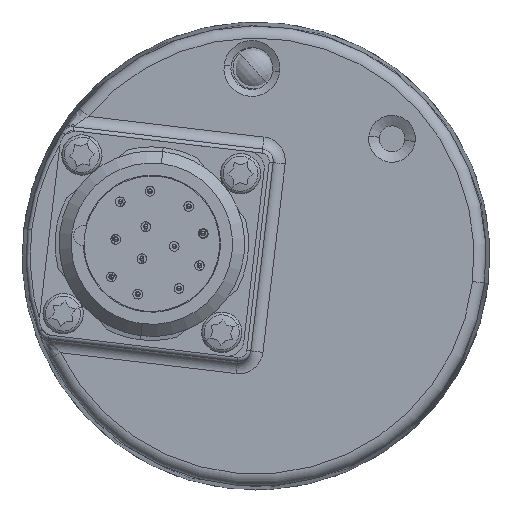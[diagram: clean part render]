
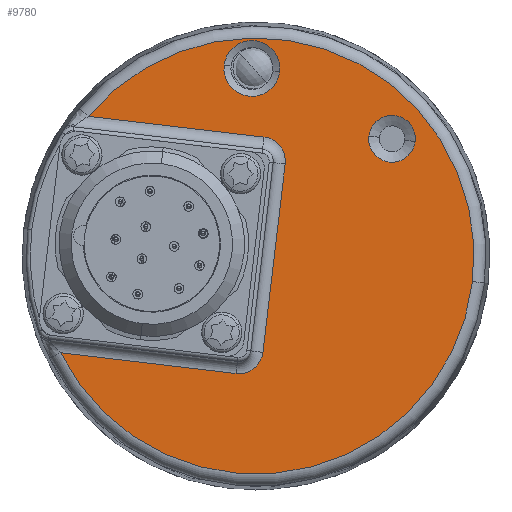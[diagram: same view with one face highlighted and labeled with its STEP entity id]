
A CAD part, left-side view. The second image highlights one B-rep face of the part: STEP entity #9780.
In plain terms, the highlighted planar face has unit normal (-1, 0, 0).
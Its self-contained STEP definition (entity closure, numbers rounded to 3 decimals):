
#14 = AXIS2_PLACEMENT_3D ( 'NONE', #20, #17, #16 ) ;
#16 = DIRECTION ( 'NONE',  ( 0., -0.993, -0.118 ) ) ;
#17 = DIRECTION ( 'NONE',  ( 1., 0., 0. ) ) ;
#20 = CARTESIAN_POINT ( 'NONE',  ( -30.5, -16.856, 14.524 ) ) ;
#133 = CARTESIAN_POINT ( 'NONE',  ( -30.5, 3.949, 23.652 ) ) ;
#134 = DIRECTION ( 'NONE',  ( 0., -0.993, -0.118 ) ) ;
#135 = DIRECTION ( 'NONE',  ( 1., 0., 0. ) ) ;
#136 = CARTESIAN_POINT ( 'NONE',  ( -30.5, 0.507, 23.244 ) ) ;
#170 = AXIS2_PLACEMENT_3D ( 'NONE', #136, #135, #134 ) ;
#171 = CIRCLE ( 'NONE', #170, 3.466 ) ;
#215 = CARTESIAN_POINT ( 'NONE',  ( -30.5, -19.735, 14.183 ) ) ;
#218 = CIRCLE ( 'NONE', #14, 2.899 ) ;
#3049 = CARTESIAN_POINT ( 'NONE',  ( -30.5, -2.935, 22.837 ) ) ;
#3826 = CARTESIAN_POINT ( 'NONE',  ( -30.5, 0., 0. ) ) ;
#3828 = AXIS2_PLACEMENT_3D ( 'NONE', #3826, #3843, #3834 ) ;
#3829 = CIRCLE ( 'NONE', #3828, 27.022 ) ;
#3833 = CARTESIAN_POINT ( 'NONE',  ( -30.5, -26.835, -3.176 ) ) ;
#3834 = DIRECTION ( 'NONE',  ( 0., -0.993, -0.118 ) ) ;
#3839 = CARTESIAN_POINT ( 'NONE',  ( -30.5, 20.751, 17.309 ) ) ;
#3843 = DIRECTION ( 'NONE',  ( -1., 0., 0. ) ) ;
#3924 = CARTESIAN_POINT ( 'NONE',  ( -30.5, 2.478, -14.56 ) ) ;
#3944 = CIRCLE ( 'NONE', #3991, 3. ) ;
#3945 = DIRECTION ( 'NONE',  ( 0., -0.993, -0.118 ) ) ;
#3946 = VECTOR ( 'NONE', #3945, 1000. ) ;
#3947 = CARTESIAN_POINT ( 'NONE',  ( -30.5, -2.478, 14.56 ) ) ;
#3948 = CARTESIAN_POINT ( 'NONE',  ( -30.5, -0.989, 14.736 ) ) ;
#3949 = DIRECTION ( 'NONE',  ( 0., -0.993, -0.118 ) ) ;
#3955 = DIRECTION ( 'NONE',  ( -1., 0., 0. ) ) ;
#3961 = DIRECTION ( 'NONE',  ( 0., -0.993, -0.118 ) ) ;
#3962 = DIRECTION ( 'NONE',  ( -1., 0., 0. ) ) ;
#3990 = CARTESIAN_POINT ( 'NONE',  ( -30.5, -0.636, 11.757 ) ) ;
#3991 = AXIS2_PLACEMENT_3D ( 'NONE', #3990, #3962, #3961 ) ;
#3992 = CARTESIAN_POINT ( 'NONE',  ( -30.5, -3.615, 11.404 ) ) ;
#4003 = CARTESIAN_POINT ( 'NONE',  ( -30.5, 0., 0. ) ) ;
#4004 = AXIS2_PLACEMENT_3D ( 'NONE', #4003, #4036, #4035 ) ;
#4005 = CIRCLE ( 'NONE', #4004, 27.022 ) ;
#4034 = LINE ( 'NONE', #3947, #3946 ) ;
#4035 = DIRECTION ( 'NONE',  ( 0., -0.993, -0.118 ) ) ;
#4036 = DIRECTION ( 'NONE',  ( -1., 0., 0. ) ) ;
#4043 = DIRECTION ( 'NONE',  ( 0., 0.993, 0.118 ) ) ;
#4044 = VECTOR ( 'NONE', #4043, 1000. ) ;
#4045 = CARTESIAN_POINT ( 'NONE',  ( -30.5, 26.794, -11.682 ) ) ;
#4046 = LINE ( 'NONE', #4045, #4044 ) ;
#4065 = DIRECTION ( 'NONE',  ( 0., 0.118, -0.993 ) ) ;
#4066 = VECTOR ( 'NONE', #4065, 1000. ) ;
#4067 = CARTESIAN_POINT ( 'NONE',  ( -30.5, -0.677, -13.423 ) ) ;
#4068 = LINE ( 'NONE', #4067, #4066 ) ;
#4069 = CARTESIAN_POINT ( 'NONE',  ( -30.5, -0.853, -11.933 ) ) ;
#4073 = AXIS2_PLACEMENT_3D ( 'NONE', #4077, #3955, #3949 ) ;
#4074 = CIRCLE ( 'NONE', #4073, 3. ) ;
#4076 = CIRCLE ( 'NONE', #4081, 3.466 ) ;
#4077 = CARTESIAN_POINT ( 'NONE',  ( -30.5, 2.126, -11.58 ) ) ;
#4078 = DIRECTION ( 'NONE',  ( 0., -0.993, -0.118 ) ) ;
#4079 = DIRECTION ( 'NONE',  ( 1., 0., 0. ) ) ;
#4080 = CARTESIAN_POINT ( 'NONE',  ( -30.5, 0.507, 23.244 ) ) ;
#4081 = AXIS2_PLACEMENT_3D ( 'NONE', #4080, #4079, #4078 ) ;
#4163 = CARTESIAN_POINT ( 'NONE',  ( -30.5, 24.218, -11.987 ) ) ;
#4663 = FACE_OUTER_BOUND ( 'NONE', #9462, .T. ) ;
#4664 = FACE_BOUND ( 'NONE', #9455, .T. ) ;
#4665 = FACE_BOUND ( 'NONE', #9783, .T. ) ;
#4723 = PLANE ( 'NONE',  #4770 ) ;
#4767 = DIRECTION ( 'NONE',  ( 0., -0.993, -0.118 ) ) ;
#4768 = DIRECTION ( 'NONE',  ( 1., 0., 0. ) ) ;
#4769 = CARTESIAN_POINT ( 'NONE',  ( -30.5, 0., 0. ) ) ;
#4770 = AXIS2_PLACEMENT_3D ( 'NONE', #4769, #4768, #4767 ) ;
#4814 = DIRECTION ( 'NONE',  ( 0., -0.993, -0.118 ) ) ;
#4815 = DIRECTION ( 'NONE',  ( 1., 0., 0. ) ) ;
#4816 = CARTESIAN_POINT ( 'NONE',  ( -30.5, -16.856, 14.524 ) ) ;
#4818 = AXIS2_PLACEMENT_3D ( 'NONE', #4816, #4815, #4814 ) ;
#4819 = CIRCLE ( 'NONE', #4818, 2.899 ) ;
#8825 = EDGE_CURVE ( 'NONE', #8826, #9089, #171, .T. ) ;
#8826 = VERTEX_POINT ( 'NONE', #133 ) ;
#8855 = VERTEX_POINT ( 'NONE', #215 ) ;
#8859 = EDGE_CURVE ( 'NONE', #8861, #8855, #218, .T. ) ;
#8861 = VERTEX_POINT ( 'NONE', #15508 ) ;
#9089 = VERTEX_POINT ( 'NONE', #3049 ) ;
#9231 = EDGE_CURVE ( 'NONE', #9232, #9234, #3829, .T. ) ;
#9232 = VERTEX_POINT ( 'NONE', #3833 ) ;
#9234 = VERTEX_POINT ( 'NONE', #3839 ) ;
#9442 = ORIENTED_EDGE ( 'NONE', *, *, #9444, .T. ) ;
#9444 = EDGE_CURVE ( 'NONE', #9537, #9232, #4005, .T. ) ;
#9445 = ORIENTED_EDGE ( 'NONE', *, *, #9231, .T. ) ;
#9446 = ORIENTED_EDGE ( 'NONE', *, *, #9447, .T. ) ;
#9447 = EDGE_CURVE ( 'NONE', #9234, #9448, #4034, .T. ) ;
#9448 = VERTEX_POINT ( 'NONE', #3948 ) ;
#9449 = ORIENTED_EDGE ( 'NONE', *, *, #9450, .F. ) ;
#9450 = EDGE_CURVE ( 'NONE', #9451, #9448, #3944, .T. ) ;
#9451 = VERTEX_POINT ( 'NONE', #3992 ) ;
#9452 = ORIENTED_EDGE ( 'NONE', *, *, #9453, .T. ) ;
#9453 = EDGE_CURVE ( 'NONE', #9451, #9454, #4068, .T. ) ;
#9454 = VERTEX_POINT ( 'NONE', #4069 ) ;
#9455 = EDGE_LOOP ( 'NONE', ( #9457, #9460 ) ) ;
#9457 = ORIENTED_EDGE ( 'NONE', *, *, #8825, .T. ) ;
#9460 = ORIENTED_EDGE ( 'NONE', *, *, #9506, .T. ) ;
#9462 = EDGE_LOOP ( 'NONE', ( #9463, #9442, #9445, #9446, #9449, #9452, #9507 ) ) ;
#9463 = ORIENTED_EDGE ( 'NONE', *, *, #9464, .T. ) ;
#9464 = EDGE_CURVE ( 'NONE', #9465, #9537, #4046, .T. ) ;
#9465 = VERTEX_POINT ( 'NONE', #3924 ) ;
#9506 = EDGE_CURVE ( 'NONE', #9089, #8826, #4076, .T. ) ;
#9507 = ORIENTED_EDGE ( 'NONE', *, *, #9508, .F. ) ;
#9508 = EDGE_CURVE ( 'NONE', #9465, #9454, #4074, .T. ) ;
#9537 = VERTEX_POINT ( 'NONE', #4163 ) ;
#9780 = ADVANCED_FACE ( 'NONE', ( #4665, #4664, #4663 ), #4723, .F. ) ;
#9783 = EDGE_LOOP ( 'NONE', ( #9784, #9785 ) ) ;
#9784 = ORIENTED_EDGE ( 'NONE', *, *, #8859, .T. ) ;
#9785 = ORIENTED_EDGE ( 'NONE', *, *, #9791, .T. ) ;
#9791 = EDGE_CURVE ( 'NONE', #8855, #8861, #4819, .T. ) ;
#15508 = CARTESIAN_POINT ( 'NONE',  ( -30.5, -13.977, 14.865 ) ) ;
